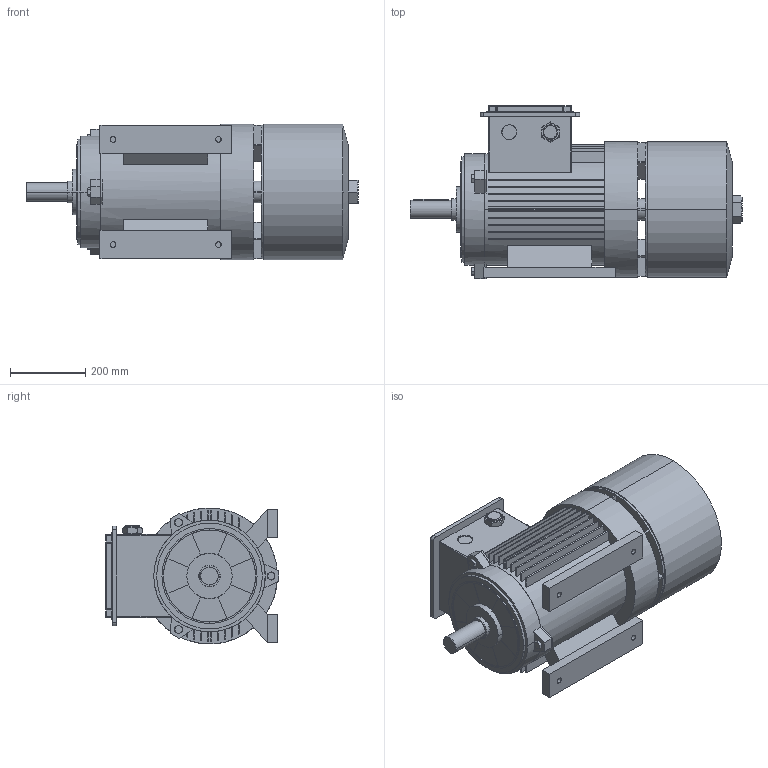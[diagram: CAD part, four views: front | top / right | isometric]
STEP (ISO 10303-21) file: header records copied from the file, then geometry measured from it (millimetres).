
FILE_DESCRIPTION (( 'STEP AP214' ), '1' );
FILE_NAME ('MBF 180L-B3.STEP', '2020-06-20T07:50:57', ( '' ), ( '' ), 'SwSTEP 2.0', 'SolidWorks 2016', '' );
FILE_SCHEMA (( 'AUTOMOTIVE_DESIGN' ));
Length unit declared in the file: millimetre
Products named in the file (1): MBF 180L-B3
Bounding box: 880 x 459.86 x 360 mm (x, y, z)
Surface area: 2058070.7 mm2 (no closed solid volume)
Topology: 0 solids, 14 shells, 760 faces, 2030 edges, 1306 vertices
Faces by surface type: plane 472, cylinder 141, bspline 101, cone 46
Entity records: 36753 total; most frequent: CARTESIAN_POINT 10685, ORIENTED_EDGE 4004, DIRECTION 2978, EDGE_CURVE 2018, VERTEX_POINT 1306, VECTOR 1222, LINE 1222, AXIS2_PLACEMENT_3D 878
